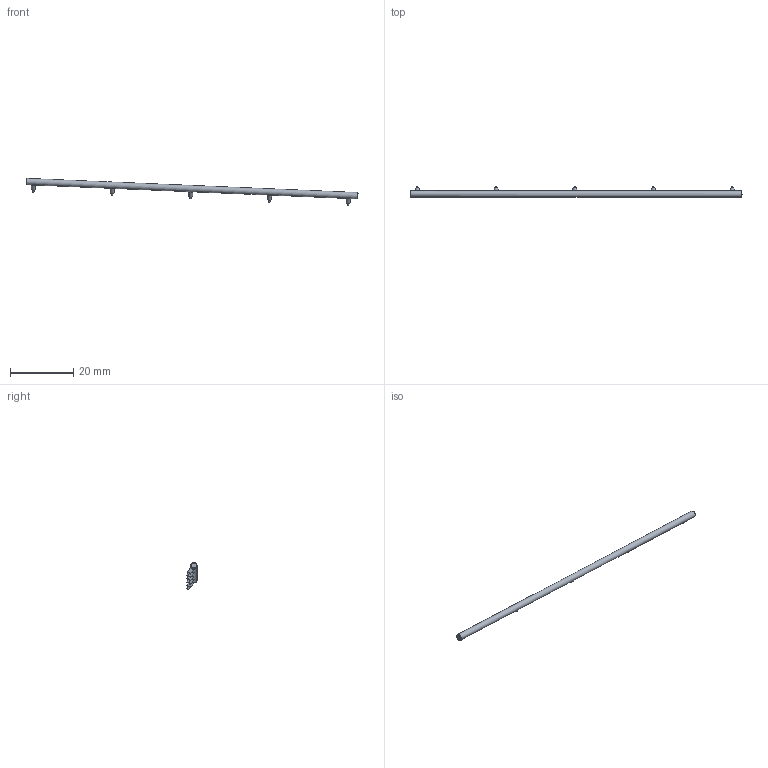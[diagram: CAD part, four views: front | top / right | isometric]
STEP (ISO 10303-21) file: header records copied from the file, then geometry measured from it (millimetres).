
FILE_DESCRIPTION(/* description */ ('','CAx-IF Rec.Pracs.---Representation and Presentation of Product Manufacturing Information (PMI)---4.0---2014-10-13'),/* implementation_level */ '2;1');
FILE_NAME(/* name */ '20elcohandraildcport.step',/* time_stamp */ '2025-03-07T14:18:14+11:00',/* author */ (''),/* organization */ (''),/* preprocessor_version */ 'ST-DEVELOPER v20',/* originating_system */ 'Autodesk Translation Framework v13.20.0.188',/* authorisation */ '');
FILE_SCHEMA (('AP242_MANAGED_MODEL_BASED_3D_ENGINEERING_MIM_LF { 1 0 10303 442 1 1 4 }'));
Length unit declared in the file: millimetre
Products named in the file (1): RearRoundLocker
Bounding box: 105.38 x 3.31 x 8.63 mm (x, y, z)
Volume: 343.2 mm3; surface area: 710.7 mm2
Topology: 1 solids, 1 shells, 30 faces, 54 edges, 36 vertices
Faces by surface type: plane 12, cylinder 11, bspline 5, torus 2
Full cylindrical faces by diameter (mm): 0.5 x5, 1.25 x5, 2 x1
Entity records: 1476 total; most frequent: CARTESIAN_POINT 856, DIRECTION 119, ORIENTED_EDGE 108, EDGE_CURVE 54, AXIS2_PLACEMENT_3D 54, EDGE_LOOP 40, VERTEX_POINT 36, FACE_OUTER_BOUND 30
